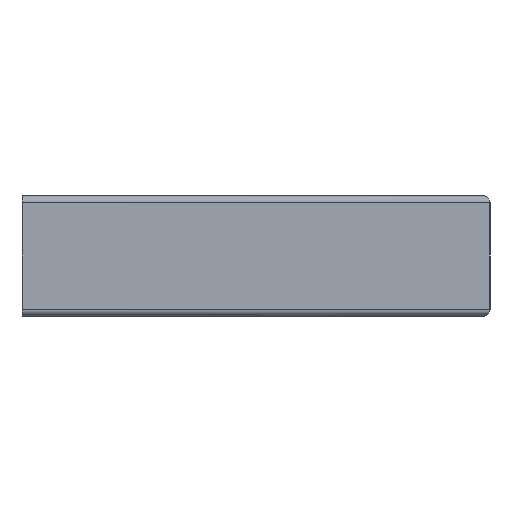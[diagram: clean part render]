
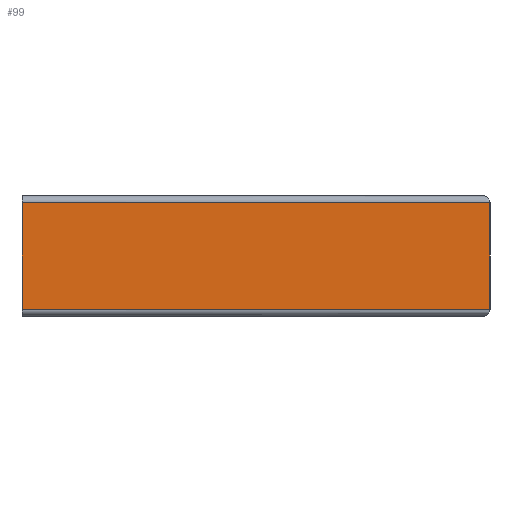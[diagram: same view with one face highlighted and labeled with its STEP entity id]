
A CAD part, left-side view. The second image highlights one B-rep face of the part: STEP entity #99.
In plain terms, the highlighted planar face has unit normal (-1, 0, 0).
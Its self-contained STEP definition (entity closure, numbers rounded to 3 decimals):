
#99 = ADVANCED_FACE( '', ( #151 ), #152, .T. );
#151 = FACE_OUTER_BOUND( '', #205, .T. );
#152 = PLANE( '', #206 );
#205 = EDGE_LOOP( '', ( #392, #393, #394, #395 ) );
#206 = AXIS2_PLACEMENT_3D( '', #396, #397, #398 );
#392 = ORIENTED_EDGE( '', *, *, #470, .F. );
#393 = ORIENTED_EDGE( '', *, *, #473, .F. );
#394 = ORIENTED_EDGE( '', *, *, #471, .T. );
#395 = ORIENTED_EDGE( '', *, *, #422, .F. );
#396 = CARTESIAN_POINT( '', ( -13.999, 0., -4. ) );
#397 = DIRECTION( '', ( -1., 0., 0. ) );
#398 = DIRECTION( '', ( 0., 0., -1. ) );
#422 = EDGE_CURVE( '', #493, #495, #496, .T. );
#470 = EDGE_CURVE( '', #569, #493, #571, .T. );
#471 = EDGE_CURVE( '', #572, #495, #573, .T. );
#473 = EDGE_CURVE( '', #572, #569, #575, .T. );
#493 = VERTEX_POINT( '', #600 );
#495 = VERTEX_POINT( '', #603 );
#496 = LINE( '', #604, #605 );
#569 = VERTEX_POINT( '', #740 );
#571 = LINE( '', #742, #743 );
#572 = VERTEX_POINT( '', #744 );
#573 = LINE( '', #745, #746 );
#575 = LINE( '', #748, #749 );
#600 = CARTESIAN_POINT( '', ( -13.999, -35., 4. ) );
#603 = CARTESIAN_POINT( '', ( -13.999, -35., -4. ) );
#604 = CARTESIAN_POINT( '', ( -13.999, -35., 4.25 ) );
#605 = VECTOR( '', #768, 1. );
#740 = CARTESIAN_POINT( '', ( -13.999, 0., 4. ) );
#742 = CARTESIAN_POINT( '', ( -13.999, 0., 4. ) );
#743 = VECTOR( '', #846, 1. );
#744 = CARTESIAN_POINT( '', ( -13.999, 0., -4. ) );
#745 = CARTESIAN_POINT( '', ( -13.999, 0., -4. ) );
#746 = VECTOR( '', #847, 1. );
#748 = CARTESIAN_POINT( '', ( -13.999, 0., -4. ) );
#749 = VECTOR( '', #851, 1. );
#768 = DIRECTION( '', ( 0., 0., -1. ) );
#846 = DIRECTION( '', ( 0., -1., 0. ) );
#847 = DIRECTION( '', ( 0., -1., 0. ) );
#851 = DIRECTION( '', ( 0., 0., 1. ) );
